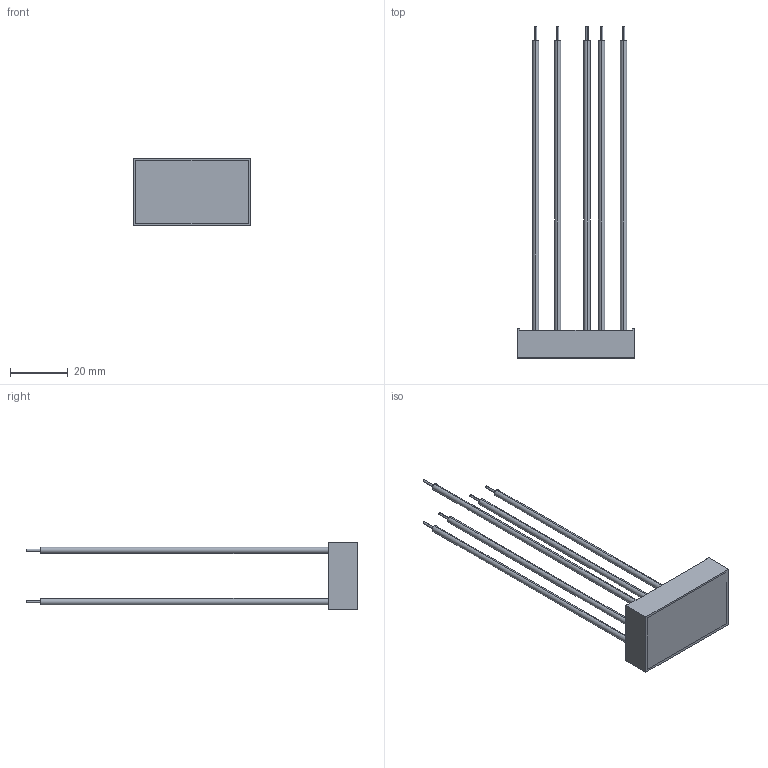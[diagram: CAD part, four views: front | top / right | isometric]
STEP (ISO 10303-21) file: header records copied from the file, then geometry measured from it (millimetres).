
FILE_DESCRIPTION (( 'STEP AP214' ), '1' );
FILE_NAME ('ALD-DXXXLW組合圖-1071212.STEP', '2018-12-12T04:00:30', ( '' ), ( '' ), 'SwSTEP 2.0', 'SolidWorks 2017', '' );
FILE_SCHEMA (( 'AUTOMOTIVE_DESIGN' ));
Length unit declared in the file: millimetre
Products named in the file (3): CASE示意圖(K-G002-00-M)G511A510012-1071212; ALD-DXXXLW組合圖-1071212; ALD-DXXXLW 內部示意圖-1071212
Assembly tree (2 placements, depth 2):
  ALD-DXXXLW組合圖-1071212
    CASE示意圖(K-G002-00-M)G511A510012-1071212
    ALD-DXXXLW 內部示意圖-1071212
Bounding box: 40.6 x 115.1 x 23.5 mm (x, y, z)
Volume: 12083.3 mm3; surface area: 11367.7 mm2
Topology: 2 solids, 2 shells, 56 faces, 120 edges, 80 vertices
Faces by surface type: plane 32, cylinder 24
Entity records: 1642 total; most frequent: DIRECTION 290, CARTESIAN_POINT 261, ORIENTED_EDGE 240, EDGE_CURVE 120, AXIS2_PLACEMENT_3D 109, VERTEX_POINT 80, LINE 72, VECTOR 72
